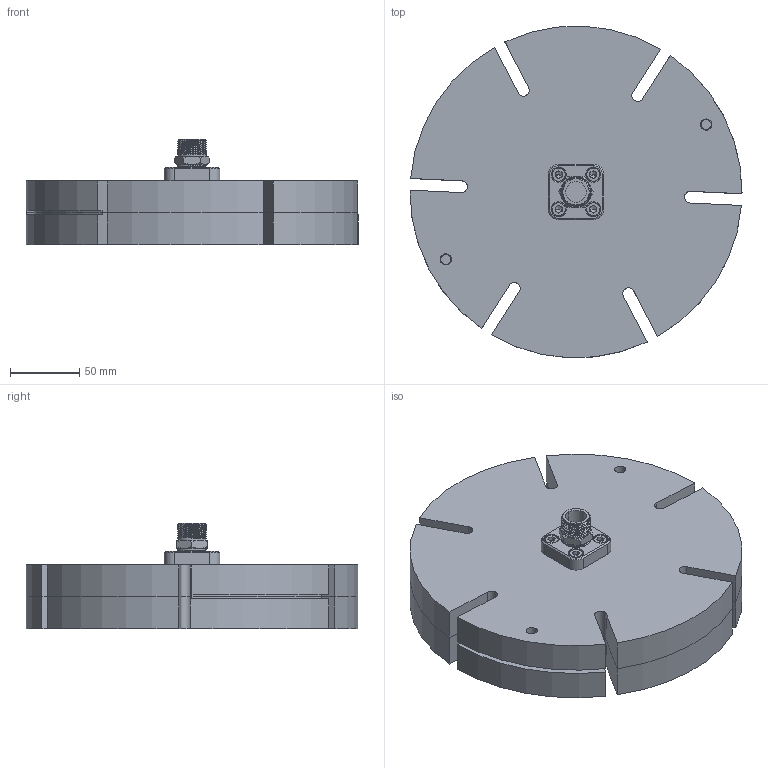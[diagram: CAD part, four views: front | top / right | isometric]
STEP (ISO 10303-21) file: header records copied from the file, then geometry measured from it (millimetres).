
FILE_DESCRIPTION (( 'STEP AP214' ), '1' );
FILE_NAME ('Handout_5.0_Precious-Plastic.STEP', '2019-10-31T19:19:11', ( 'Ritterchen' ), ( '' ), 'SwSTEP 2.0', 'SolidWorks 2018', '' );
FILE_SCHEMA (( 'AUTOMOTIVE_DESIGN' ));
Length unit declared in the file: millimetre
Products named in the file (7): parallel pin hardened_iso_ISO 8734 - 8 x 30 - A - St; socket head cap screw_iso_ISO 4762 M6 x 12 - 12S; Thread-Adapter G1-2_G1_2; Screw Adapterplate_v2; Injection; Bottom2; Handout_5.0_Precious-Plastic
Assembly tree (10 placements, depth 2):
  Handout_5.0_Precious-Plastic
    Bottom2
    Injection
    Screw Adapterplate_v2
    Thread-Adapter G1-2_G1_2
    socket head cap screw_iso_ISO 4762 M6 x 12 - 12S  x4
    parallel pin hardened_iso_ISO 8734 - 8 x 30 - A - St  x2
Bounding box: 240 x 239.75 x 76 mm (x, y, z)
Volume: 1934951.1 mm3; surface area: 259276 mm2
Topology: 10 solids, 10 shells, 3303 faces, 8447 edges, 5431 vertices
Faces by surface type: plane 1779, bspline 1053, cone 225, cylinder 222, torus 24
Entity records: 150895 total; most frequent: CARTESIAN_POINT 73589, ORIENTED_EDGE 15610, EDGE_CURVE 7805, B_SPLINE_CURVE_WITH_KNOTS 6026, DIRECTION 5422, VERTEX_POINT 5054, EDGE_LOOP 3363, ADVANCED_FACE 3052
